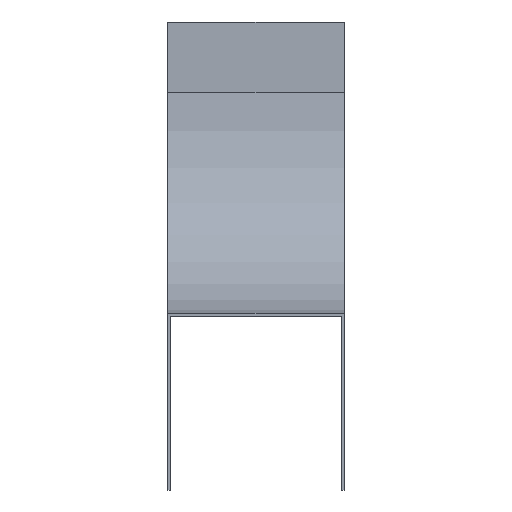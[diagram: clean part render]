
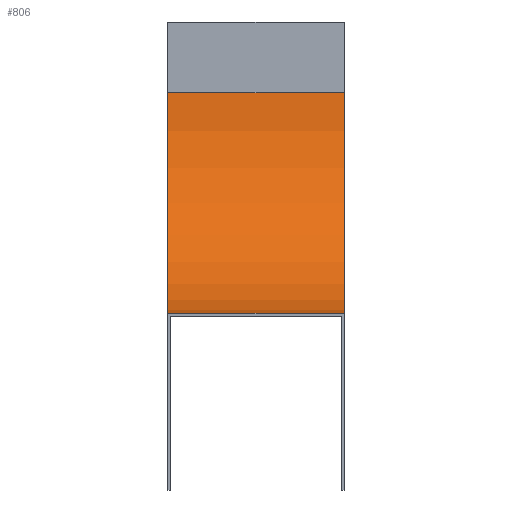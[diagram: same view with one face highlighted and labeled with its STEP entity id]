
A CAD part, front view. The second image highlights one B-rep face of the part: STEP entity #806.
In plain terms, the highlighted cylindrical face has radius 125 mm (diameter 250 mm), a partial arc.
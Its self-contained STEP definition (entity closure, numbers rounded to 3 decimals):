
#57 = FACE_OUTER_BOUND ( 'NONE', #838, .T. ) ;
#68 = AXIS2_PLACEMENT_3D ( 'NONE', #1069, #1060, #804 ) ;
#74 = EDGE_CURVE ( 'NONE', #242, #1299, #1576, .T. ) ;
#77 = DIRECTION ( 'NONE',  ( -1., 0., 0. ) ) ;
#84 = CARTESIAN_POINT ( 'NONE',  ( 50., 0., -40. ) ) ;
#98 = VERTEX_POINT ( 'NONE', #1018 ) ;
#113 = CARTESIAN_POINT ( 'NONE',  ( 50., -125., -165. ) ) ;
#175 = CARTESIAN_POINT ( 'NONE',  ( 50., 0., -40. ) ) ;
#201 = DIRECTION ( 'NONE',  ( 0., 0., 1. ) ) ;
#242 = VERTEX_POINT ( 'NONE', #175 ) ;
#285 = CARTESIAN_POINT ( 'NONE',  ( -50., -125., -165. ) ) ;
#436 = DIRECTION ( 'NONE',  ( -1., 0., 0. ) ) ;
#468 = CARTESIAN_POINT ( 'NONE',  ( 50., -125., -165. ) ) ;
#518 = CARTESIAN_POINT ( 'NONE',  ( 50., -125., -40. ) ) ;
#742 = EDGE_CURVE ( 'NONE', #1299, #1098, #1592, .T. ) ;
#801 = AXIS2_PLACEMENT_3D ( 'NONE', #518, #1157, #909 ) ;
#804 = DIRECTION ( 'NONE',  ( 0., 0., 1. ) ) ;
#805 = CIRCLE ( 'NONE', #68, 125. ) ;
#806 = ADVANCED_FACE ( 'NONE', ( #57 ), #1090, .F. ) ;
#838 = EDGE_LOOP ( 'NONE', ( #1015, #1177, #1077, #1008 ) ) ;
#843 = CARTESIAN_POINT ( 'NONE',  ( 50., -125., -40. ) ) ;
#859 = DIRECTION ( 'NONE',  ( -1., 0., 0. ) ) ;
#909 = DIRECTION ( 'NONE',  ( 0., 0., 1. ) ) ;
#1008 = ORIENTED_EDGE ( 'NONE', *, *, #1573, .T. ) ;
#1015 = ORIENTED_EDGE ( 'NONE', *, *, #1369, .T. ) ;
#1018 = CARTESIAN_POINT ( 'NONE',  ( -50., 0., -40. ) ) ;
#1042 = AXIS2_PLACEMENT_3D ( 'NONE', #843, #859, #201 ) ;
#1060 = DIRECTION ( 'NONE',  ( -1., 0., 0. ) ) ;
#1069 = CARTESIAN_POINT ( 'NONE',  ( -50., -125., -40. ) ) ;
#1077 = ORIENTED_EDGE ( 'NONE', *, *, #74, .F. ) ;
#1090 = CYLINDRICAL_SURFACE ( 'NONE', #1042, 125. ) ;
#1098 = VERTEX_POINT ( 'NONE', #285 ) ;
#1116 = LINE ( 'NONE', #84, #1640 ) ;
#1157 = DIRECTION ( 'NONE',  ( -1., 0., 0. ) ) ;
#1177 = ORIENTED_EDGE ( 'NONE', *, *, #742, .F. ) ;
#1255 = VECTOR ( 'NONE', #436, 1000. ) ;
#1299 = VERTEX_POINT ( 'NONE', #113 ) ;
#1369 = EDGE_CURVE ( 'NONE', #98, #1098, #805, .T. ) ;
#1573 = EDGE_CURVE ( 'NONE', #242, #98, #1116, .T. ) ;
#1576 = CIRCLE ( 'NONE', #801, 125. ) ;
#1592 = LINE ( 'NONE', #468, #1255 ) ;
#1640 = VECTOR ( 'NONE', #77, 1000. ) ;
